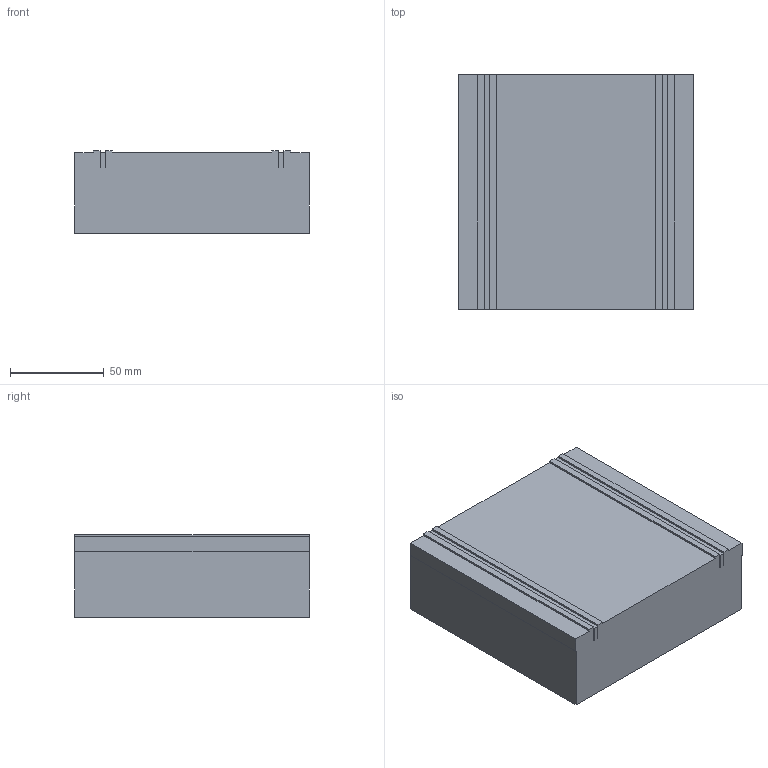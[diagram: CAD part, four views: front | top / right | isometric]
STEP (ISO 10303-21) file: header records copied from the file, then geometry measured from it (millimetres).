
FILE_DESCRIPTION(/* description */ (''),/* implementation_level */ '2;1');
FILE_NAME(/* name */ 'U:\KONSTRUKTORIAI\DOKUMENTACIJA\3\3MB6\step\3MB6.stp',/* time_stamp */ '2018-09-13T14:35:11+03:00',/* author */ ('dsgn31'),/* organization */ (''),/* preprocessor_version */ 'ST-DEVELOPER v15.2',/* originating_system */ 'Autodesk Inventor 2014',/* authorisation */ '');
FILE_SCHEMA (('AUTOMOTIVE_DESIGN { 1 0 10303 214 3 1 1 }'));
Length unit declared in the file: millimetre
Products named in the file (1): 3MB6_Shrinkwrap_1
Bounding box: 125.2 x 125 x 44 mm (x, y, z)
Volume: 666214.1 mm3; surface area: 60294.1 mm2
Topology: 1 solids, 9 shells, 132 faces, 318 edges, 216 vertices
Faces by surface type: plane 58, cylinder 49, cone 25
Full cylindrical faces by diameter (mm): 4.2 x8, 4.5 x8, 4.917 x25
Entity records: 3182 total; most frequent: DIRECTION 588, CARTESIAN_POINT 518, ORIENTED_EDGE 404, AXIS2_PLACEMENT_3D 240, EDGE_LOOP 206, EDGE_CURVE 202, VERTEX_POINT 162, ADVANCED_FACE 132
